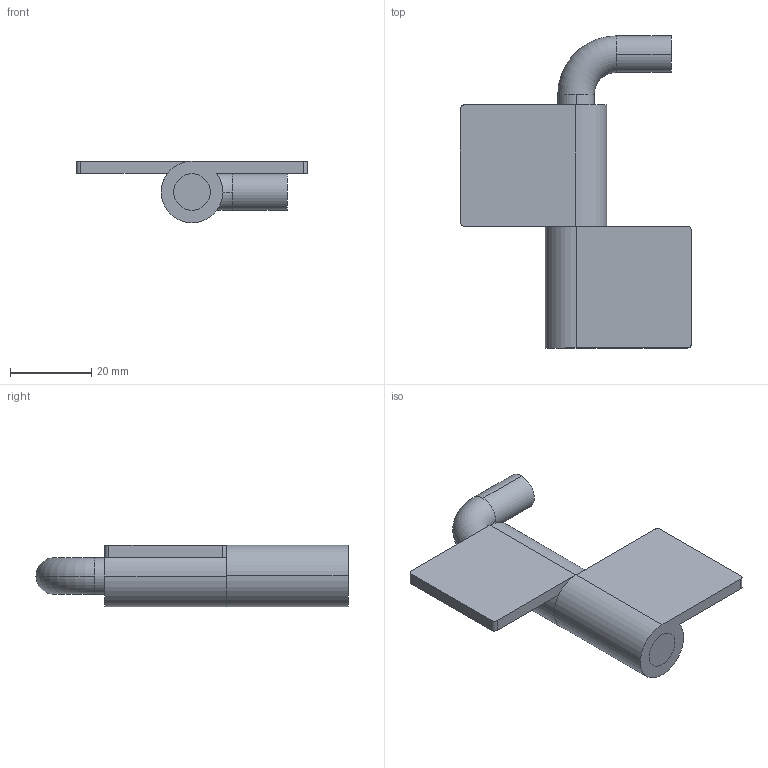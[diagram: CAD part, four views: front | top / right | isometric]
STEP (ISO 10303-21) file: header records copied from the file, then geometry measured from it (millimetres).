
FILE_DESCRIPTION (( 'STEP AP203' ), '1' );
FILE_NAME ('B31-12201.STEP', '2025-06-26T08:07:53', ( '' ), ( '' ), 'SwSTEP 2.0', 'SolidWorks 2021', '' );
FILE_SCHEMA (( 'CONFIG_CONTROL_DESIGN' ));
Length unit declared in the file: millimetre
Products named in the file (3): B31-12201-軸; B31-12201; B31-12201-片
Assembly tree (3 placements, depth 2):
  B31-12201
    B31-12201-軸
    B31-12201-片  x2
Bounding box: 57 x 77 x 15.2 mm (x, y, z)
Volume: 17271.6 mm3; surface area: 10854.8 mm2
Topology: 3 solids, 3 shells, 32 faces, 78 edges, 52 vertices
Faces by surface type: cylinder 18, plane 12, torus 2
Entity records: 941 total; most frequent: DIRECTION 128, CARTESIAN_POINT 106, ORIENTED_EDGE 96, AXIS2_PLACEMENT_3D 54, EDGE_CURVE 48, VERTEX_POINT 32, CIRCLE 28, PERSON_AND_ORGANIZATION 27
